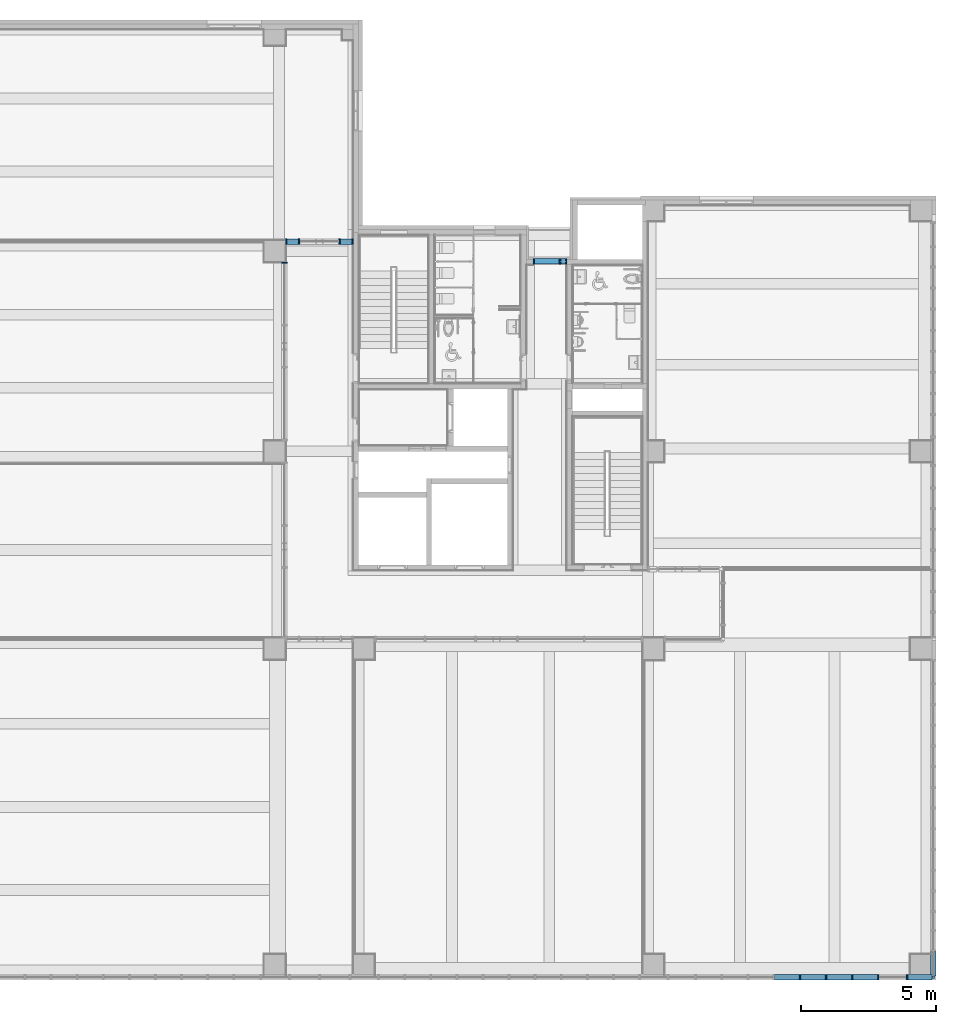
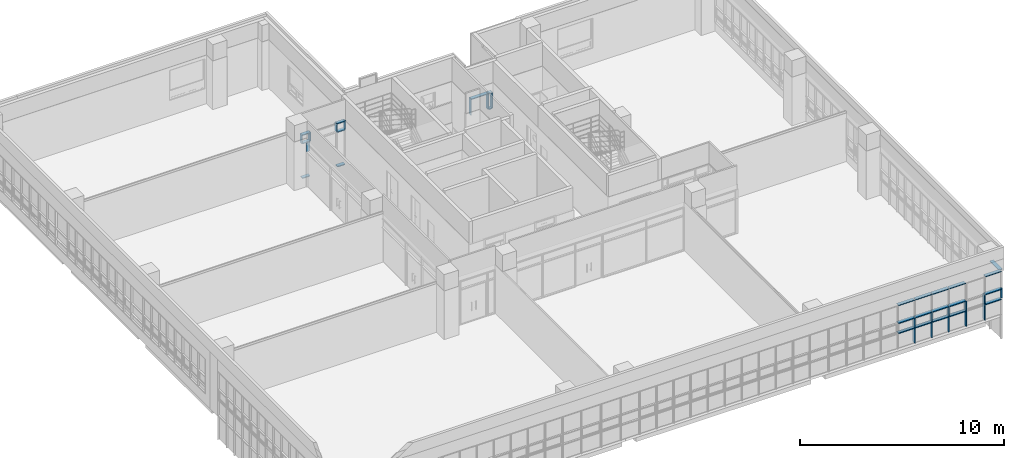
# One storey, part 18 of 81: 44 members, 5 elements without a shape of their own.
"""IFC2X3 building model written with IfcOpenShell, lengths in millimetres."""

from ifc_helpers import new_model, entity, si_unit, converted_unit, derived_unit, direction, frame, origin, origin_2d_with_axis, place, context, subcontext, project, spatial, rectangle, extrude, source, transform, mapped, material, type_object, type_shapes, element, aggregate, save


model = new_model("IFC2X3")

# Units and contexts
model_context = context("Model", 3, precision=0.01, world=origin(), true_north=direction((6.123031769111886e-17, 1.0)))
body_context = subcontext(model_context, "Body", "Model", "MODEL_VIEW")
ifc_project = project(units=[si_unit("LENGTHUNIT", "METRE", prefix="MILLI"), si_unit("AREAUNIT", "SQUARE_METRE"), si_unit("VOLUMEUNIT", "CUBIC_METRE"), converted_unit("PLANEANGLEUNIT", "DEGREE", entity("IfcRatioMeasure", 0.017453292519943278), si_unit("PLANEANGLEUNIT", "RADIAN"), dimensions=[0, 0, 0, 0, 0, 0, 0]), si_unit("MASSUNIT", "GRAM", prefix="KILO"), derived_unit("MASSDENSITYUNIT", [(si_unit("MASSUNIT", "GRAM", prefix="KILO"), 1), (si_unit("LENGTHUNIT", "METRE"), -3)]), derived_unit("MOMENTOFINERTIAUNIT", [(si_unit("LENGTHUNIT", "METRE"), 4)]), si_unit("TIMEUNIT", "SECOND"), si_unit("FREQUENCYUNIT", "HERTZ"), si_unit("THERMODYNAMICTEMPERATUREUNIT", "DEGREE_CELSIUS"), derived_unit("THERMALTRANSMITTANCEUNIT", [(si_unit("MASSUNIT", "GRAM", prefix="KILO"), 1), (si_unit("THERMODYNAMICTEMPERATUREUNIT", "KELVIN"), -1), (si_unit("TIMEUNIT", "SECOND"), -3)]), derived_unit("VOLUMETRICFLOWRATEUNIT", [(si_unit("LENGTHUNIT", "METRE"), 3), (si_unit("TIMEUNIT", "SECOND"), -1)]), derived_unit("MASSFLOWRATEUNIT", [(si_unit("MASSUNIT", "GRAM", prefix="KILO"), 1), (si_unit("TIMEUNIT", "SECOND"), -1)]), derived_unit("ROTATIONALFREQUENCYUNIT", [(si_unit("TIMEUNIT", "SECOND"), -1)]), si_unit("ELECTRICCURRENTUNIT", "AMPERE"), si_unit("ELECTRICVOLTAGEUNIT", "VOLT"), si_unit("POWERUNIT", "WATT"), si_unit("FORCEUNIT", "NEWTON", prefix="KILO"), si_unit("ILLUMINANCEUNIT", "LUX"), si_unit("LUMINOUSFLUXUNIT", "LUMEN"), si_unit("LUMINOUSINTENSITYUNIT", "CANDELA"), derived_unit("USERDEFINED", [(si_unit("MASSUNIT", "GRAM", prefix="KILO"), -1), (si_unit("LENGTHUNIT", "METRE"), -2), (si_unit("TIMEUNIT", "SECOND"), 3), (si_unit("LUMINOUSFLUXUNIT", "LUMEN"), 1)]), derived_unit("SOUNDPOWERUNIT", [(si_unit("MASSUNIT", "GRAM", prefix="KILO"), 1), (si_unit("LENGTHUNIT", "METRE"), 2), (si_unit("TIMEUNIT", "SECOND"), -3)]), derived_unit("SOUNDPRESSUREUNIT", [(si_unit("MASSUNIT", "GRAM", prefix="KILO"), 1), (si_unit("LENGTHUNIT", "METRE"), -1), (si_unit("TIMEUNIT", "SECOND"), -2)]), derived_unit("LINEARVELOCITYUNIT", [(si_unit("LENGTHUNIT", "METRE"), 1), (si_unit("TIMEUNIT", "SECOND"), -1)]), si_unit("PRESSUREUNIT", "PASCAL"), derived_unit("USERDEFINED", [(si_unit("LENGTHUNIT", "METRE"), -2), (si_unit("MASSUNIT", "GRAM", prefix="KILO"), 1), (si_unit("TIMEUNIT", "SECOND"), -2)]), derived_unit("LINEARFORCEUNIT", [(si_unit("MASSUNIT", "GRAM", prefix="KILO"), 1), (si_unit("LENGTHUNIT", "METRE"), 1), (si_unit("TIMEUNIT", "SECOND"), -2), (si_unit("LENGTHUNIT", "METRE"), -1)]), derived_unit("PLANARFORCEUNIT", [(si_unit("MASSUNIT", "GRAM", prefix="KILO"), 1), (si_unit("LENGTHUNIT", "METRE"), 1), (si_unit("TIMEUNIT", "SECOND"), -2), (si_unit("LENGTHUNIT", "METRE"), -2)])], contexts=[model_context])

# Site, building, storey
site_placement = place(None, frame((-14167.972527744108, -657.2125860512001, 0.0)))
site = spatial("IfcSite", under=ifc_project, at=site_placement, Name="Default", CompositionType="ELEMENT")
building_placement = place(site_placement, origin())
building = spatial("IfcBuilding", under=site, at=building_placement, Name="Sample Building", CompositionType="ELEMENT")
storey_placement = place(building_placement, frame((0.0, 0.0, 13400.0)))
storey = spatial("IfcBuildingStorey", under=building, at=storey_placement, Name="지상 4층", CompositionType="ELEMENT", Elevation=13400.00000000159)

# Curtain wall, members
curtain_wall_type = type_object("IfcCurtainWallType", Name="커튼월:CW112-스테인리스 스틸 커튼월", PredefinedType="NOTDEFINED")
curtain_wall_1_placement = place(storey_placement, frame((0.0, 0.0, -13400.0)))
curtain_wall_1 = element("IfcCurtainWall", 1, at=curtain_wall_1_placement, inside=storey, type_object=curtain_wall_type, Name="커튼월:CW112-스테인리스 스틸 커튼월", ObjectType="커튼월:CW112-스테인리스 스틸 커튼월")
ifc_material = material(Name="<Unnamed>")
member_type_1 = type_object("IfcMemberType", Name="직사각형 멀리언:CW200-직사각형 멀리언 50x200mm", PredefinedType="MULLION", material=ifc_material)
shared_shape_1 = source(origin(), body_context, "Body", "SweptSolid", [
    extrude(rectangle(XDim=200.0, YDim=50.0, at=origin_2d_with_axis()), frame((-25.0, 0.0, -925.0), z_axis=(0.0, 0.0, 1.0), x_axis=(0.0, -1.0, 0.0)), (0.0, 0.0, 1.0), 924.9999999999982),
])
type_shapes(member_type_1, [shared_shape_1])
member_1_placement = place(curtain_wall_1_placement, frame((37692.963798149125, 26982.21229514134, 15500.0), z_axis=(1.0, 0.0, 0.0), x_axis=(0.0, 0.0, 1.0)))
member_1 = element("IfcMember", 2, at=member_1_placement, type_object=member_type_1, material=ifc_material, Name="직사각형 멀리언:CW200-직사각형 멀리언 50x200mm", ObjectType="직사각형 멀리언:CW200-직사각형 멀리언 50x200mm", context=body_context, shape_type="MappedRepresentation", body=[
    mapped(shared_shape_1, transform((0.0, 0.0, 0.0), scale=1.0)),
])
member_type_2 = type_object("IfcMemberType", Name="직사각형 멀리언:CW200-직사각형 멀리언 50x200mm", PredefinedType="MULLION", material=ifc_material)
shared_shape_2 = source(origin(), body_context, "Body", "SweptSolid", [
    extrude(rectangle(XDim=200.0, YDim=50.0, at=origin_2d_with_axis()), frame((-25.0, 0.0, -175.0), z_axis=(0.0, 0.0, 1.0), x_axis=(0.0, -1.0, 0.0)), (0.0, 0.0, 1.0), 175.0000000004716),
])
type_shapes(member_type_2, [shared_shape_2])
member_2_placement = place(curtain_wall_1_placement, frame((37917.96379814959, 26982.21229514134, 15500.0), z_axis=(1.0, 0.0, 0.0), x_axis=(0.0, 0.0, 1.0)))
member_2 = element("IfcMember", 3, at=member_2_placement, type_object=member_type_2, material=ifc_material, Name="직사각형 멀리언:CW200-직사각형 멀리언 50x200mm", ObjectType="직사각형 멀리언:CW200-직사각형 멀리언 50x200mm", context=body_context, shape_type="MappedRepresentation", body=[
    mapped(shared_shape_2, transform((0.0, 0.0, 0.0), scale=1.0)),
])
member_type_3 = type_object("IfcMemberType", Name="직사각형 멀리언:CW200-직사각형 멀리언 50x200mm", PredefinedType="MULLION", material=ifc_material)
shared_shape_3 = source(origin(), body_context, "Body", "SweptSolid", [
    extrude(rectangle(XDim=200.0, YDim=50.0, at=origin_2d_with_axis()), frame((-25.0, 0.0, -970.0), z_axis=(0.0, 0.0, 1.0), x_axis=(0.0, -1.0, 0.0)), (0.0, 0.0, 1.0), 970.0000000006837),
])
type_shapes(member_type_3, [shared_shape_3])
member_3_placement = place(curtain_wall_1_placement, frame((36717.963798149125, 26982.212295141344, 15500.0), z_axis=(0.0, 0.0, 1.0), x_axis=(-1.0, 0.0, 0.0)))
member_3 = element("IfcMember", 4, at=member_3_placement, type_object=member_type_3, material=ifc_material, Name="직사각형 멀리언:CW200-직사각형 멀리언 50x200mm", ObjectType="직사각형 멀리언:CW200-직사각형 멀리언 50x200mm", context=body_context, shape_type="MappedRepresentation", body=[
    mapped(shared_shape_3, transform((0.0, 0.0, 0.0), scale=1.0)),
])
member_type_4 = type_object("IfcMemberType", Name="직사각형 멀리언:CW200-직사각형 멀리언 50x200mm", PredefinedType="MULLION", material=ifc_material)
shared_shape_4 = source(origin(), body_context, "Body", "SweptSolid", [
    extrude(rectangle(XDim=200.0, YDim=50.0, at=origin_2d_with_axis()), frame((-25.0, 0.0, -970.0), z_axis=(0.0, 0.0, 1.0), x_axis=(0.0, -1.0, 0.0)), (0.0, 0.0, 1.0), 970.0000000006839),
])
type_shapes(member_type_4, [shared_shape_4])
member_4_placement = place(curtain_wall_1_placement, frame((37967.96379814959, 26982.21229514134, 14530.0), z_axis=(0.0, 0.0, -1.0), x_axis=(1.0, 0.0, 0.0)))
member_4 = element("IfcMember", 5, at=member_4_placement, type_object=member_type_4, material=ifc_material, Name="직사각형 멀리언:CW200-직사각형 멀리언 50x200mm", ObjectType="직사각형 멀리언:CW200-직사각형 멀리언 50x200mm", context=body_context, shape_type="MappedRepresentation", body=[
    mapped(shared_shape_4, transform((0.0, 0.0, 0.0), scale=1.0)),
])
member_type_5 = type_object("IfcMemberType", Name="직사각형 멀리언:CW200-직사각형 멀리언 50x200mm", PredefinedType="MULLION", material=ifc_material)
shared_shape_5 = source(origin(), body_context, "Body", "SweptSolid", [
    extrude(rectangle(XDim=200.0, YDim=50.0, at=origin_2d_with_axis()), frame((0.0, 0.0, -175.0), z_axis=(0.0, 0.0, 1.0), x_axis=(0.0, -1.0, 0.0)), (0.0, 0.0, 1.0), 175.00000000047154),
])
type_shapes(member_type_5, [shared_shape_5])
member_5_placement = place(curtain_wall_1_placement, frame((37917.96379814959, 26982.21229514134, 14530.0), z_axis=(1.0, 0.0, 0.0), x_axis=(0.0, 0.0, 1.0)))
member_5 = element("IfcMember", 6, at=member_5_placement, type_object=member_type_5, material=ifc_material, Name="직사각형 멀리언:CW200-직사각형 멀리언 50x200mm", ObjectType="직사각형 멀리언:CW200-직사각형 멀리언 50x200mm", context=body_context, shape_type="MappedRepresentation", body=[
    mapped(shared_shape_5, transform((0.0, 0.0, 0.0), scale=1.0)),
])
member_type_6 = type_object("IfcMemberType", Name="직사각형 멀리언:CW200-직사각형 멀리언 50x200mm", PredefinedType="MULLION", material=ifc_material)
shared_shape_6 = source(origin(), body_context, "Body", "SweptSolid", [
    extrude(rectangle(XDim=200.0, YDim=50.0, at=origin_2d_with_axis()), frame((0.0, 0.0, -970.0), z_axis=(0.0, 0.0, 1.0), x_axis=(0.0, -1.0, 0.0)), (0.0, 0.0, 1.0), 970.0000000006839),
])
type_shapes(member_type_6, [shared_shape_6])
member_6_placement = place(curtain_wall_1_placement, frame((37717.963798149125, 26982.21229514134, 14530.0), z_axis=(0.0, 0.0, -1.0), x_axis=(1.0, 0.0, 0.0)))
member_6 = element("IfcMember", 7, at=member_6_placement, type_object=member_type_6, material=ifc_material, Name="직사각형 멀리언:CW200-직사각형 멀리언 50x200mm", ObjectType="직사각형 멀리언:CW200-직사각형 멀리언 50x200mm", context=body_context, shape_type="MappedRepresentation", body=[
    mapped(shared_shape_6, transform((0.0, 0.0, 0.0), scale=1.0)),
])
aggregate(curtain_wall_1, [member_2, member_3, member_1, member_4, member_5, member_6])

curtain_wall_2_placement = place(storey_placement, frame((0.0, 0.0, -13400.0)))
curtain_wall_2 = element("IfcCurtainWall", 8, at=curtain_wall_2_placement, inside=storey, type_object=curtain_wall_type, Name="커튼월:CW112-스테인리스 스틸 커튼월", ObjectType="커튼월:CW112-스테인리스 스틸 커튼월")
member_type_7 = type_object("IfcMemberType", Name="직사각형 멀리언:CW200-직사각형 멀리언 50x200mm", PredefinedType="MULLION", material=ifc_material)
shared_shape_7 = source(origin(), body_context, "Body", "SweptSolid", [
    extrude(rectangle(XDim=200.0, YDim=50.0, at=origin_2d_with_axis()), frame((0.0, 0.0, -600.0), z_axis=(0.0, 0.0, 1.0), x_axis=(0.0, -1.0, 0.0)), (0.0, 0.0, 1.0), 600.0),
])
type_shapes(member_type_7, [shared_shape_7])
member_7_placement = place(curtain_wall_2_placement, frame((46590.15607007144, 507.2122951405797, 14400.0), z_axis=(0.0, 0.0, -1.0), x_axis=(1.0, 0.0, 0.0)))
member_7 = element("IfcMember", 9, at=member_7_placement, type_object=member_type_7, material=ifc_material, Name="직사각형 멀리언:CW200-직사각형 멀리언 50x200mm", ObjectType="직사각형 멀리언:CW200-직사각형 멀리언 50x200mm", context=body_context, shape_type="MappedRepresentation", body=[
    mapped(shared_shape_7, transform((0.0, 0.0, 0.0), scale=1.0)),
])
member_8_placement = place(curtain_wall_2_placement, frame((47555.15607007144, 507.21229514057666, 14400.0), z_axis=(0.0, 0.0, -1.0), x_axis=(1.0, 0.0, 0.0)))
member_8 = element("IfcMember", 10, at=member_8_placement, type_object=member_type_7, material=ifc_material, Name="직사각형 멀리언:CW200-직사각형 멀리언 50x200mm", ObjectType="직사각형 멀리언:CW200-직사각형 멀리언 50x200mm", context=body_context, shape_type="MappedRepresentation", body=[
    mapped(shared_shape_7, transform((0.0, 0.0, 0.0), scale=1.0)),
])
member_9_placement = place(curtain_wall_2_placement, frame((48520.15607007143, 507.21229514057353, 14400.0), z_axis=(0.0, 0.0, -1.0), x_axis=(1.0, 0.0, 0.0)))
member_9 = element("IfcMember", 11, at=member_9_placement, type_object=member_type_7, material=ifc_material, Name="직사각형 멀리언:CW200-직사각형 멀리언 50x200mm", ObjectType="직사각형 멀리언:CW200-직사각형 멀리언 50x200mm", context=body_context, shape_type="MappedRepresentation", body=[
    mapped(shared_shape_7, transform((0.0, 0.0, 0.0), scale=1.0)),
])
member_10_placement = place(curtain_wall_2_placement, frame((49485.15607007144, 507.2122951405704, 14400.0), z_axis=(0.0, 0.0, -1.0), x_axis=(1.0, 0.0, 0.0)))
member_10 = element("IfcMember", 12, at=member_10_placement, type_object=member_type_7, material=ifc_material, Name="직사각형 멀리언:CW200-직사각형 멀리언 50x200mm", ObjectType="직사각형 멀리언:CW200-직사각형 멀리언 50x200mm", context=body_context, shape_type="MappedRepresentation", body=[
    mapped(shared_shape_7, transform((0.0, 0.0, 0.0), scale=1.0)),
])
member_11_placement = place(curtain_wall_2_placement, frame((50550.15607007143, 507.21229514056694, 14400.0), z_axis=(0.0, 0.0, -1.0), x_axis=(1.0, 0.0, 0.0)))
member_11 = element("IfcMember", 13, at=member_11_placement, type_object=member_type_7, material=ifc_material, Name="직사각형 멀리언:CW200-직사각형 멀리언 50x200mm", ObjectType="직사각형 멀리언:CW200-직사각형 멀리언 50x200mm", context=body_context, shape_type="MappedRepresentation", body=[
    mapped(shared_shape_7, transform((0.0, 0.0, 0.0), scale=1.0)),
])

# Curtain wall, member
curtain_wall_3_placement = place(storey_placement, frame((0.0, 0.0, -13400.0)))
curtain_wall_3 = element("IfcCurtainWall", 14, at=curtain_wall_3_placement, inside=storey, type_object=curtain_wall_type, Name="커튼월:CW112-스테인리스 스틸 커튼월", ObjectType="커튼월:CW112-스테인리스 스틸 커튼월")
member_type_8 = type_object("IfcMemberType", Name="직사각형 멀리언:CW200-직사각형 멀리언 50x200mm", PredefinedType="MULLION", material=ifc_material)
shared_shape_8 = source(origin(), body_context, "Body", "SweptSolid", [
    extrude(rectangle(XDim=200.0, YDim=50.0, at=origin_2d_with_axis()), frame((-25.0, 0.0, -520.0), z_axis=(0.0, 0.0, 1.0), x_axis=(0.0, -1.0, 0.0)), (0.0, 0.0, 1.0), 520.0000000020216),
])
type_shapes(member_type_8, [shared_shape_8])
member_12_placement = place(curtain_wall_3_placement, frame((30067.96376153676, 27712.17793519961, 16100.0)))
member_12 = element("IfcMember", 15, at=member_12_placement, type_object=member_type_8, material=ifc_material, Name="직사각형 멀리언:CW200-직사각형 멀리언 50x200mm", ObjectType="직사각형 멀리언:CW200-직사각형 멀리언 50x200mm", context=body_context, shape_type="MappedRepresentation", body=[
    mapped(shared_shape_8, transform((0.0, 0.0, 0.0), scale=1.0)),
])

curtain_wall_4_placement = place(storey_placement, frame((0.0, 0.0, -13400.0)))
curtain_wall_4 = element("IfcCurtainWall", 16, at=curtain_wall_4_placement, inside=storey, type_object=curtain_wall_type, Name="커튼월:CW112-스테인리스 스틸 커튼월", ObjectType="커튼월:CW112-스테인리스 스틸 커튼월")
member_13_placement = place(curtain_wall_4_placement, frame((27523.086972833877, 26957.21230799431, 16100.0), z_axis=(0.0, 0.0, 1.0), x_axis=(0.0, 1.0, 0.0)))
member_13 = element("IfcMember", 17, at=member_13_placement, type_object=member_type_8, material=ifc_material, Name="직사각형 멀리언:CW200-직사각형 멀리언 50x200mm", ObjectType="직사각형 멀리언:CW200-직사각형 멀리언 50x200mm", context=body_context, shape_type="MappedRepresentation", body=[
    mapped(shared_shape_8, transform((0.0, 0.0, 0.0), scale=1.0)),
])
aggregate(curtain_wall_4, [member_13])

# Member
member_type_9 = type_object("IfcMemberType", Name="직사각형 멀리언:CW200-직사각형 멀리언 50x200mm", PredefinedType="MULLION", material=ifc_material)
shared_shape_9 = source(origin(), body_context, "Body", "SweptSolid", [
    extrude(rectangle(XDim=200.0, YDim=50.0, at=origin_2d_with_axis()), frame((-25.0, 0.0, -520.0), z_axis=(0.0, 0.0, 1.0), x_axis=(0.0, -1.0, 0.0)), (0.0, 0.0, 1.0), 520.0000000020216),
])
type_shapes(member_type_9, [shared_shape_9])
member_14_placement = place(curtain_wall_3_placement, frame((27567.963761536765, 27712.177935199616, 15580.0), z_axis=(0.0, 0.0, -1.0), x_axis=(-1.0, 0.0, 0.0)))
member_14 = element("IfcMember", 18, at=member_14_placement, type_object=member_type_9, material=ifc_material, Name="직사각형 멀리언:CW200-직사각형 멀리언 50x200mm", ObjectType="직사각형 멀리언:CW200-직사각형 멀리언 50x200mm", context=body_context, shape_type="MappedRepresentation", body=[
    mapped(shared_shape_9, transform((0.0, 0.0, 0.0), scale=1.0)),
])

member_type_10 = type_object("IfcMemberType", Name="직사각형 멀리언:CW200-직사각형 멀리언 50x200mm", PredefinedType="MULLION", material=ifc_material)
shared_shape_10 = source(origin(), body_context, "Body", "SweptSolid", [
    extrude(rectangle(XDim=200.0, YDim=50.0, at=origin_2d_with_axis()), frame((0.0, 0.0, -520.0), z_axis=(0.0, 0.0, 1.0), x_axis=(0.0, -1.0, 0.0)), (0.0, 0.0, 1.0), 520.0000000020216),
])
type_shapes(member_type_10, [shared_shape_10])
member_15_placement = place(curtain_wall_3_placement, frame((29566.09100563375, 27712.17793519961, 15580.0), z_axis=(0.0, 0.0, -1.0), x_axis=(-1.0, 0.0, 0.0)))
member_15 = element("IfcMember", 19, at=member_15_placement, type_object=member_type_10, material=ifc_material, Name="직사각형 멀리언:CW200-직사각형 멀리언 50x200mm", ObjectType="직사각형 멀리언:CW200-직사각형 멀리언 50x200mm", context=body_context, shape_type="MappedRepresentation", body=[
    mapped(shared_shape_10, transform((0.0, 0.0, 0.0), scale=1.0)),
])

member_16_placement = place(curtain_wall_3_placement, frame((28066.091005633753, 27712.177935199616, 15580.0), z_axis=(0.0, 0.0, -1.0), x_axis=(-1.0, 0.0, 0.0)))
member_16 = element("IfcMember", 20, at=member_16_placement, type_object=member_type_10, material=ifc_material, Name="직사각형 멀리언:CW200-직사각형 멀리언 50x200mm", ObjectType="직사각형 멀리언:CW200-직사각형 멀리언 50x200mm", context=body_context, shape_type="MappedRepresentation", body=[
    mapped(shared_shape_10, transform((0.0, 0.0, 0.0), scale=1.0)),
])

member_type_11 = type_object("IfcMemberType", Name="직사각형 멀리언:CW200-직사각형 멀리언 50x200mm", PredefinedType="MULLION", material=ifc_material)
shared_shape_11 = source(origin(), body_context, "Body", "SweptSolid", [
    extrude(rectangle(XDim=200.0, YDim=50.0, at=origin_2d_with_axis()), frame((-25.0, 0.0, -892.8077588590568), z_axis=(0.0, 0.0, 1.0), x_axis=(0.0, -1.0, 0.0)), (0.0, 0.0, 1.0), 892.8077588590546),
])
type_shapes(member_type_11, [shared_shape_11])
member_17_placement = place(curtain_wall_2_placement, frame((51467.96382893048, 507.212295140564, 16100.0), z_axis=(1.0, 0.0, 0.0), x_axis=(0.0, 0.0, 1.0)))
member_17 = element("IfcMember", 21, at=member_17_placement, type_object=member_type_11, material=ifc_material, Name="직사각형 멀리언:CW200-직사각형 멀리언 50x200mm", ObjectType="직사각형 멀리언:CW200-직사각형 멀리언 50x200mm", context=body_context, shape_type="MappedRepresentation", body=[
    mapped(shared_shape_11, transform((0.0, 0.0, 0.0), scale=1.0)),
])

member_type_12 = type_object("IfcMemberType", Name="직사각형 멀리언:CW200-직사각형 멀리언 50x200mm", PredefinedType="MULLION", material=ifc_material)
shared_shape_12 = source(origin(), body_context, "Body", "SweptSolid", [
    extrude(rectangle(XDim=200.0, YDim=50.0, at=origin_2d_with_axis()), frame((0.0, 0.0, -915.0), z_axis=(0.0, 0.0, 1.0), x_axis=(0.0, -1.0, 0.0)), (0.0, 0.0, 1.0), 915.000000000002),
])
type_shapes(member_type_12, [shared_shape_12])
member_18_placement = place(curtain_wall_2_placement, frame((46565.15607007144, 507.21229514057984, 14400.0), z_axis=(1.0, 0.0, 0.0), x_axis=(0.0, 0.0, 1.0)))
member_18 = element("IfcMember", 22, at=member_18_placement, type_object=member_type_12, material=ifc_material, Name="직사각형 멀리언:CW200-직사각형 멀리언 50x200mm", ObjectType="직사각형 멀리언:CW200-직사각형 멀리언 50x200mm", context=body_context, shape_type="MappedRepresentation", body=[
    mapped(shared_shape_12, transform((0.0, 0.0, 0.0), scale=1.0)),
])

member_19_placement = place(curtain_wall_2_placement, frame((47530.15607007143, 507.2122951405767, 14400.0), z_axis=(1.0, 0.0, 0.0), x_axis=(0.0, 0.0, 1.0)))
member_19 = element("IfcMember", 23, at=member_19_placement, type_object=member_type_12, material=ifc_material, Name="직사각형 멀리언:CW200-직사각형 멀리언 50x200mm", ObjectType="직사각형 멀리언:CW200-직사각형 멀리언 50x200mm", context=body_context, shape_type="MappedRepresentation", body=[
    mapped(shared_shape_12, transform((0.0, 0.0, 0.0), scale=1.0)),
])

member_20_placement = place(curtain_wall_2_placement, frame((48495.15607007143, 507.2122951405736, 14400.0), z_axis=(1.0, 0.0, 0.0), x_axis=(0.0, 0.0, 1.0)))
member_20 = element("IfcMember", 24, at=member_20_placement, type_object=member_type_12, material=ifc_material, Name="직사각형 멀리언:CW200-직사각형 멀리언 50x200mm", ObjectType="직사각형 멀리언:CW200-직사각형 멀리언 50x200mm", context=body_context, shape_type="MappedRepresentation", body=[
    mapped(shared_shape_12, transform((0.0, 0.0, 0.0), scale=1.0)),
])

member_21_placement = place(curtain_wall_2_placement, frame((49460.15607007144, 507.21229514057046, 14400.0), z_axis=(1.0, 0.0, 0.0), x_axis=(0.0, 0.0, 1.0)))
member_21 = element("IfcMember", 25, at=member_21_placement, type_object=member_type_12, material=ifc_material, Name="직사각형 멀리언:CW200-직사각형 멀리언 50x200mm", ObjectType="직사각형 멀리언:CW200-직사각형 멀리언 50x200mm", context=body_context, shape_type="MappedRepresentation", body=[
    mapped(shared_shape_12, transform((0.0, 0.0, 0.0), scale=1.0)),
])

member_22_placement = place(curtain_wall_2_placement, frame((46565.15607007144, 507.21229514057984, 15000.0), z_axis=(1.0, 0.0, 0.0), x_axis=(0.0, 0.0, 1.0)))
member_22 = element("IfcMember", 26, at=member_22_placement, type_object=member_type_12, material=ifc_material, Name="직사각형 멀리언:CW200-직사각형 멀리언 50x200mm", ObjectType="직사각형 멀리언:CW200-직사각형 멀리언 50x200mm", context=body_context, shape_type="MappedRepresentation", body=[
    mapped(shared_shape_12, transform((0.0, 0.0, 0.0), scale=1.0)),
])

member_23_placement = place(curtain_wall_2_placement, frame((47530.15607007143, 507.2122951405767, 15000.0), z_axis=(1.0, 0.0, 0.0), x_axis=(0.0, 0.0, 1.0)))
member_23 = element("IfcMember", 27, at=member_23_placement, type_object=member_type_12, material=ifc_material, Name="직사각형 멀리언:CW200-직사각형 멀리언 50x200mm", ObjectType="직사각형 멀리언:CW200-직사각형 멀리언 50x200mm", context=body_context, shape_type="MappedRepresentation", body=[
    mapped(shared_shape_12, transform((0.0, 0.0, 0.0), scale=1.0)),
])

member_24_placement = place(curtain_wall_2_placement, frame((48495.15607007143, 507.2122951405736, 15000.0), z_axis=(1.0, 0.0, 0.0), x_axis=(0.0, 0.0, 1.0)))
member_24 = element("IfcMember", 28, at=member_24_placement, type_object=member_type_12, material=ifc_material, Name="직사각형 멀리언:CW200-직사각형 멀리언 50x200mm", ObjectType="직사각형 멀리언:CW200-직사각형 멀리언 50x200mm", context=body_context, shape_type="MappedRepresentation", body=[
    mapped(shared_shape_12, transform((0.0, 0.0, 0.0), scale=1.0)),
])

member_25_placement = place(curtain_wall_2_placement, frame((49460.156070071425, 507.21229514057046, 15000.0), z_axis=(1.0, 0.0, 0.0), x_axis=(0.0, 0.0, 1.0)))
member_25 = element("IfcMember", 29, at=member_25_placement, type_object=member_type_12, material=ifc_material, Name="직사각형 멀리언:CW200-직사각형 멀리언 50x200mm", ObjectType="직사각형 멀리언:CW200-직사각형 멀리언 50x200mm", context=body_context, shape_type="MappedRepresentation", body=[
    mapped(shared_shape_12, transform((0.0, 0.0, 0.0), scale=1.0)),
])

member_type_13 = type_object("IfcMemberType", Name="직사각형 멀리언:CW200-직사각형 멀리언 50x200mm", PredefinedType="MULLION", material=ifc_material)
shared_shape_13 = source(origin(), body_context, "Body", "SweptSolid", [
    extrude(rectangle(XDim=200.0, YDim=50.0, at=origin_2d_with_axis()), frame((-25.0, 0.0, -915.0), z_axis=(0.0, 0.0, 1.0), x_axis=(0.0, -1.0, 0.0)), (0.0, 0.0, 1.0), 914.9999999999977),
])
type_shapes(member_type_13, [shared_shape_13])
member_26_placement = place(curtain_wall_2_placement, frame((46565.15607007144, 507.21229514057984, 16100.0), z_axis=(1.0, 0.0, 0.0), x_axis=(0.0, 0.0, 1.0)))
member_26 = element("IfcMember", 30, at=member_26_placement, type_object=member_type_13, material=ifc_material, Name="직사각형 멀리언:CW200-직사각형 멀리언 50x200mm", ObjectType="직사각형 멀리언:CW200-직사각형 멀리언 50x200mm", context=body_context, shape_type="MappedRepresentation", body=[
    mapped(shared_shape_13, transform((0.0, 0.0, 0.0), scale=1.0)),
])

member_27_placement = place(curtain_wall_2_placement, frame((47530.15607007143, 507.2122951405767, 16100.0), z_axis=(1.0, 0.0, 0.0), x_axis=(0.0, 0.0, 1.0)))
member_27 = element("IfcMember", 31, at=member_27_placement, type_object=member_type_13, material=ifc_material, Name="직사각형 멀리언:CW200-직사각형 멀리언 50x200mm", ObjectType="직사각형 멀리언:CW200-직사각형 멀리언 50x200mm", context=body_context, shape_type="MappedRepresentation", body=[
    mapped(shared_shape_13, transform((0.0, 0.0, 0.0), scale=1.0)),
])

member_28_placement = place(curtain_wall_2_placement, frame((48495.15607007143, 507.2122951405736, 16100.0), z_axis=(1.0, 0.0, 0.0), x_axis=(0.0, 0.0, 1.0)))
member_28 = element("IfcMember", 32, at=member_28_placement, type_object=member_type_13, material=ifc_material, Name="직사각형 멀리언:CW200-직사각형 멀리언 50x200mm", ObjectType="직사각형 멀리언:CW200-직사각형 멀리언 50x200mm", context=body_context, shape_type="MappedRepresentation", body=[
    mapped(shared_shape_13, transform((0.0, 0.0, 0.0), scale=1.0)),
])

member_29_placement = place(curtain_wall_2_placement, frame((49460.156070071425, 507.21229514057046, 16100.0), z_axis=(1.0, 0.0, 0.0), x_axis=(0.0, 0.0, 1.0)))
member_29 = element("IfcMember", 33, at=member_29_placement, type_object=member_type_13, material=ifc_material, Name="직사각형 멀리언:CW200-직사각형 멀리언 50x200mm", ObjectType="직사각형 멀리언:CW200-직사각형 멀리언 50x200mm", context=body_context, shape_type="MappedRepresentation", body=[
    mapped(shared_shape_13, transform((0.0, 0.0, 0.0), scale=1.0)),
])

member_type_14 = type_object("IfcMemberType", Name="직사각형 멀리언:CW200-직사각형 멀리언 50x200mm", PredefinedType="MULLION", material=ifc_material)
shared_shape_14 = source(origin(), body_context, "Body", "SweptSolid", [
    extrude(rectangle(XDim=200.0, YDim=50.0, at=origin_2d_with_axis()), frame((0.0, 0.0, -892.8077588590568), z_axis=(0.0, 0.0, 1.0), x_axis=(0.0, -1.0, 0.0)), (0.0, 0.0, 1.0), 892.8077588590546),
])
type_shapes(member_type_14, [shared_shape_14])
member_30_placement = place(curtain_wall_2_placement, frame((51467.963828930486, 507.212295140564, 14400.0), z_axis=(1.0, 0.0, 0.0), x_axis=(0.0, 0.0, 1.0)))
member_30 = element("IfcMember", 34, at=member_30_placement, type_object=member_type_14, material=ifc_material, Name="직사각형 멀리언:CW200-직사각형 멀리언 50x200mm", ObjectType="직사각형 멀리언:CW200-직사각형 멀리언 50x200mm", context=body_context, shape_type="MappedRepresentation", body=[
    mapped(shared_shape_14, transform((0.0, 0.0, 0.0), scale=1.0)),
])

member_31_placement = place(curtain_wall_2_placement, frame((51467.96382893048, 507.212295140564, 15000.0), z_axis=(1.0, 0.0, 0.0), x_axis=(0.0, 0.0, 1.0)))
member_31 = element("IfcMember", 35, at=member_31_placement, type_object=member_type_14, material=ifc_material, Name="직사각형 멀리언:CW200-직사각형 멀리언 50x200mm", ObjectType="직사각형 멀리언:CW200-직사각형 멀리언 50x200mm", context=body_context, shape_type="MappedRepresentation", body=[
    mapped(shared_shape_14, transform((0.0, 0.0, 0.0), scale=1.0)),
])

member_type_15 = type_object("IfcMemberType", Name="직사각형 멀리언:CW200-직사각형 멀리언 50x200mm", PredefinedType="MULLION", material=ifc_material)
shared_shape_15 = source(origin(), body_context, "Body", "SweptSolid", [
    extrude(rectangle(XDim=200.0, YDim=50.0, at=origin_2d_with_axis()), frame((0.0, 0.0, -920.0), z_axis=(0.0, 0.0, 1.0), x_axis=(0.0, -1.0, 0.0)), (0.0, 0.0, 1.0), 919.9999999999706),
])
type_shapes(member_type_15, [shared_shape_15])
member_32_placement = place(curtain_wall_2_placement, frame((46590.15607007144, 507.2122951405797, 13480.0), z_axis=(0.0, 0.0, -1.0), x_axis=(1.0, 0.0, 0.0)))
member_32 = element("IfcMember", 36, at=member_32_placement, type_object=member_type_15, material=ifc_material, Name="직사각형 멀리언:CW200-직사각형 멀리언 50x200mm", ObjectType="직사각형 멀리언:CW200-직사각형 멀리언 50x200mm", context=body_context, shape_type="MappedRepresentation", body=[
    mapped(shared_shape_15, transform((0.0, 0.0, 0.0), scale=1.0)),
])

member_33_placement = place(curtain_wall_2_placement, frame((47555.156070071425, 507.21229514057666, 13480.0), z_axis=(0.0, 0.0, -1.0), x_axis=(1.0, 0.0, 0.0)))
member_33 = element("IfcMember", 37, at=member_33_placement, type_object=member_type_15, material=ifc_material, Name="직사각형 멀리언:CW200-직사각형 멀리언 50x200mm", ObjectType="직사각형 멀리언:CW200-직사각형 멀리언 50x200mm", context=body_context, shape_type="MappedRepresentation", body=[
    mapped(shared_shape_15, transform((0.0, 0.0, 0.0), scale=1.0)),
])

member_34_placement = place(curtain_wall_2_placement, frame((48520.15607007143, 507.21229514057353, 13480.0), z_axis=(0.0, 0.0, -1.0), x_axis=(1.0, 0.0, 0.0)))
member_34 = element("IfcMember", 38, at=member_34_placement, type_object=member_type_15, material=ifc_material, Name="직사각형 멀리언:CW200-직사각형 멀리언 50x200mm", ObjectType="직사각형 멀리언:CW200-직사각형 멀리언 50x200mm", context=body_context, shape_type="MappedRepresentation", body=[
    mapped(shared_shape_15, transform((0.0, 0.0, 0.0), scale=1.0)),
])

member_35_placement = place(curtain_wall_2_placement, frame((49485.15607007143, 507.2122951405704, 13480.0), z_axis=(0.0, 0.0, -1.0), x_axis=(1.0, 0.0, 0.0)))
member_35 = element("IfcMember", 39, at=member_35_placement, type_object=member_type_15, material=ifc_material, Name="직사각형 멀리언:CW200-직사각형 멀리언 50x200mm", ObjectType="직사각형 멀리언:CW200-직사각형 멀리언 50x200mm", context=body_context, shape_type="MappedRepresentation", body=[
    mapped(shared_shape_15, transform((0.0, 0.0, 0.0), scale=1.0)),
])

member_36_placement = place(curtain_wall_2_placement, frame((50550.15607007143, 507.21229514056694, 13480.0), z_axis=(0.0, 0.0, -1.0), x_axis=(1.0, 0.0, 0.0)))
member_36 = element("IfcMember", 40, at=member_36_placement, type_object=member_type_15, material=ifc_material, Name="직사각형 멀리언:CW200-직사각형 멀리언 50x200mm", ObjectType="직사각형 멀리언:CW200-직사각형 멀리언 50x200mm", context=body_context, shape_type="MappedRepresentation", body=[
    mapped(shared_shape_15, transform((0.0, 0.0, 0.0), scale=1.0)),
])

aggregate(curtain_wall_2, [member_17, member_26, member_27, member_28, member_29, member_18, member_19, member_20, member_21, member_30, member_22, member_23, member_24, member_25, member_31, member_32, member_33, member_34, member_35, member_36, member_7, member_8, member_9, member_10, member_11])

# Curtain wall, members
curtain_wall_5_placement = place(storey_placement, frame((0.0, 0.0, -13400.0)))
curtain_wall_5 = element("IfcCurtainWall", 41, at=curtain_wall_5_placement, inside=storey, type_object=curtain_wall_type, Name="커튼월:CW112-스테인리스 스틸 커튼월", ObjectType="커튼월:CW112-스테인리스 스틸 커튼월")
member_type_16 = type_object("IfcMemberType", Name="직사각형 멀리언:CW200-직사각형 멀리언 100 x 100mm", PredefinedType="MULLION", material=ifc_material)
shared_shape_16 = source(origin(), body_context, "Body", "SweptSolid", [
    extrude(rectangle(XDim=99.99999999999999, YDim=100.0, at=origin_2d_with_axis()), frame((-50.0, 0.0, -600.0), z_axis=(0.0, 0.0, 1.0), x_axis=(0.0, -1.0, 0.0)), (0.0, 0.0, 1.0), 600.0),
])
type_shapes(member_type_16, [shared_shape_16])
member_37_placement = place(curtain_wall_5_placement, frame((51517.96382893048, 457.17762439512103, 14450.0), z_axis=(0.0, 0.0, -1.0), x_axis=(0.0, -1.0, 0.0)))
member_37 = element("IfcMember", 42, at=member_37_placement, type_object=member_type_16, material=ifc_material, Name="직사각형 멀리언:CW200-직사각형 멀리언 100 x 100mm", ObjectType="직사각형 멀리언:CW200-직사각형 멀리언 100 x 100mm", context=body_context, shape_type="MappedRepresentation", body=[
    mapped(shared_shape_16, transform((0.0, 0.0, 0.0), scale=1.0)),
])
member_type_17 = type_object("IfcMemberType", Name="직사각형 멀리언:CW200-직사각형 멀리언 50x200mm", PredefinedType="MULLION", material=ifc_material)
shared_shape_17 = source(origin(), body_context, "Body", "SweptSolid", [
    extrude(rectangle(XDim=200.0, YDim=50.0, at=origin_2d_with_axis()), frame((-25.0, 0.0, -907.605411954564), z_axis=(0.0, 0.0, 1.0), x_axis=(0.0, -1.0, 0.0)), (0.0, 0.0, 1.0), 907.605411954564),
])
type_shapes(member_type_17, [shared_shape_17])
member_38_placement = place(curtain_wall_5_placement, frame((51517.96382893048, 557.177624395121, 16100.0), z_axis=(0.0, -1.0, 0.0), x_axis=(0.0, 0.0, 1.0)))
member_38 = element("IfcMember", 43, at=member_38_placement, type_object=member_type_17, material=ifc_material, Name="직사각형 멀리언:CW200-직사각형 멀리언 50x200mm", ObjectType="직사각형 멀리언:CW200-직사각형 멀리언 50x200mm", context=body_context, shape_type="MappedRepresentation", body=[
    mapped(shared_shape_17, transform((0.0, 0.0, 0.0), scale=1.0)),
])
aggregate(curtain_wall_5, [member_38, member_37])

# Member
member_type_18 = type_object("IfcMemberType", Name="직사각형 멀리언:CW200-직사각형 멀리언 50x200mm", PredefinedType="MULLION", material=ifc_material)
shared_shape_18 = source(origin(), body_context, "Body", "SweptSolid", [
    extrude(rectangle(XDim=200.0, YDim=50.0, at=origin_2d_with_axis()), frame((-25.0, 0.0, -423.12724409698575), z_axis=(0.0, 0.0, 1.0), x_axis=(0.0, -1.0, 0.0)), (0.0, 0.0, 1.0), 423.1272440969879),
])
type_shapes(member_type_18, [shared_shape_18])
member_39_placement = place(curtain_wall_3_placement, frame((27617.963761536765, 27712.177935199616, 16100.0), z_axis=(-1.0, 0.0, 0.0), x_axis=(0.0, 0.0, 1.0)))
member_39 = element("IfcMember", 44, at=member_39_placement, type_object=member_type_18, material=ifc_material, Name="직사각형 멀리언:CW200-직사각형 멀리언 50x200mm", ObjectType="직사각형 멀리언:CW200-직사각형 멀리언 50x200mm", context=body_context, shape_type="MappedRepresentation", body=[
    mapped(shared_shape_18, transform((0.0, 0.0, 0.0), scale=1.0)),
])

member_type_19 = type_object("IfcMemberType", Name="직사각형 멀리언:CW200-직사각형 멀리언 50x200mm", PredefinedType="MULLION", material=ifc_material)
shared_shape_19 = source(origin(), body_context, "Body", "SweptSolid", [
    extrude(rectangle(XDim=200.0, YDim=50.0, at=origin_2d_with_axis()), frame((-25.0, 0.0, -426.83794708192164), z_axis=(0.0, 0.0, 1.0), x_axis=(0.0, -1.0, 0.0)), (0.0, 0.0, 1.0), 426.8379470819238),
])
type_shapes(member_type_19, [shared_shape_19])
member_40_placement = place(curtain_wall_3_placement, frame((30017.96376153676, 27712.17793519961, 13480.0), z_axis=(1.0, 0.0, 0.0), x_axis=(0.0, 0.0, -1.0)))
member_40 = element("IfcMember", 45, at=member_40_placement, type_object=member_type_19, material=ifc_material, Name="직사각형 멀리언:CW200-직사각형 멀리언 50x200mm", ObjectType="직사각형 멀리언:CW200-직사각형 멀리언 50x200mm", context=body_context, shape_type="MappedRepresentation", body=[
    mapped(shared_shape_19, transform((0.0, 0.0, 0.0), scale=1.0)),
])

member_type_20 = type_object("IfcMemberType", Name="직사각형 멀리언:CW200-직사각형 멀리언 50x200mm", PredefinedType="MULLION", material=ifc_material)
shared_shape_20 = source(origin(), body_context, "Body", "SweptSolid", [
    extrude(rectangle(XDim=200.0, YDim=50.0, at=origin_2d_with_axis()), frame((0.0, 0.0, -426.83794708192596), z_axis=(0.0, 0.0, 1.0), x_axis=(0.0, -1.0, 0.0)), (0.0, 0.0, 1.0), 426.8379470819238),
])
type_shapes(member_type_20, [shared_shape_20])
member_41_placement = place(curtain_wall_3_placement, frame((29591.09100563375, 27712.17793519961, 15580.0), z_axis=(-1.0, 0.0, 0.0), x_axis=(0.0, 0.0, 1.0)))
member_41 = element("IfcMember", 46, at=member_41_placement, type_object=member_type_20, material=ifc_material, Name="직사각형 멀리언:CW200-직사각형 멀리언 50x200mm", ObjectType="직사각형 멀리언:CW200-직사각형 멀리언 50x200mm", context=body_context, shape_type="MappedRepresentation", body=[
    mapped(shared_shape_20, transform((0.0, 0.0, 0.0), scale=1.0)),
])

member_type_21 = type_object("IfcMemberType", Name="직사각형 멀리언:CW200-직사각형 멀리언 50x200mm", PredefinedType="MULLION", material=ifc_material)
shared_shape_21 = source(origin(), body_context, "Body", "SweptSolid", [
    extrude(rectangle(XDim=200.0, YDim=50.0, at=origin_2d_with_axis()), frame((-25.0, 0.0, -426.83794708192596), z_axis=(0.0, 0.0, 1.0), x_axis=(0.0, -1.0, 0.0)), (0.0, 0.0, 1.0), 426.8379470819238),
])
type_shapes(member_type_21, [shared_shape_21])
member_42_placement = place(curtain_wall_3_placement, frame((29591.09100563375, 27712.17793519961, 16100.0), z_axis=(-1.0, 0.0, 0.0), x_axis=(0.0, 0.0, 1.0)))
member_42 = element("IfcMember", 47, at=member_42_placement, type_object=member_type_21, material=ifc_material, Name="직사각형 멀리언:CW200-직사각형 멀리언 50x200mm", ObjectType="직사각형 멀리언:CW200-직사각형 멀리언 50x200mm", context=body_context, shape_type="MappedRepresentation", body=[
    mapped(shared_shape_21, transform((0.0, 0.0, 0.0), scale=1.0)),
])

member_type_22 = type_object("IfcMemberType", Name="직사각형 멀리언:CW200-직사각형 멀리언 50x200mm", PredefinedType="MULLION", material=ifc_material)
shared_shape_22 = source(origin(), body_context, "Body", "SweptSolid", [
    extrude(rectangle(XDim=200.0, YDim=50.0, at=origin_2d_with_axis()), frame((-25.0, 0.0, -423.12724409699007), z_axis=(0.0, 0.0, 1.0), x_axis=(0.0, -1.0, 0.0)), (0.0, 0.0, 1.0), 423.1272440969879),
])
type_shapes(member_type_22, [shared_shape_22])
member_43_placement = place(curtain_wall_3_placement, frame((28041.091005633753, 27712.177935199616, 13480.0), z_axis=(1.0, 0.0, 0.0), x_axis=(0.0, 0.0, -1.0)))
member_43 = element("IfcMember", 48, at=member_43_placement, type_object=member_type_22, material=ifc_material, Name="직사각형 멀리언:CW200-직사각형 멀리언 50x200mm", ObjectType="직사각형 멀리언:CW200-직사각형 멀리언 50x200mm", context=body_context, shape_type="MappedRepresentation", body=[
    mapped(shared_shape_22, transform((0.0, 0.0, 0.0), scale=1.0)),
])

member_type_23 = type_object("IfcMemberType", Name="직사각형 멀리언:CW200-직사각형 멀리언 50x200mm", PredefinedType="MULLION", material=ifc_material)
shared_shape_23 = source(origin(), body_context, "Body", "SweptSolid", [
    extrude(rectangle(XDim=200.0, YDim=50.0, at=origin_2d_with_axis()), frame((0.0, 0.0, -423.12724409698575), z_axis=(0.0, 0.0, 1.0), x_axis=(0.0, -1.0, 0.0)), (0.0, 0.0, 1.0), 423.1272440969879),
])
type_shapes(member_type_23, [shared_shape_23])
member_44_placement = place(curtain_wall_3_placement, frame((27617.963761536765, 27712.177935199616, 15580.0), z_axis=(-1.0, 0.0, 0.0), x_axis=(0.0, 0.0, 1.0)))
member_44 = element("IfcMember", 49, at=member_44_placement, type_object=member_type_23, material=ifc_material, Name="직사각형 멀리언:CW200-직사각형 멀리언 50x200mm", ObjectType="직사각형 멀리언:CW200-직사각형 멀리언 50x200mm", context=body_context, shape_type="MappedRepresentation", body=[
    mapped(shared_shape_23, transform((0.0, 0.0, 0.0), scale=1.0)),
])

aggregate(curtain_wall_3, [member_39, member_40, member_12, member_14, member_41, member_42, member_15, member_43, member_44, member_16])

save(model, "model.ifc")
